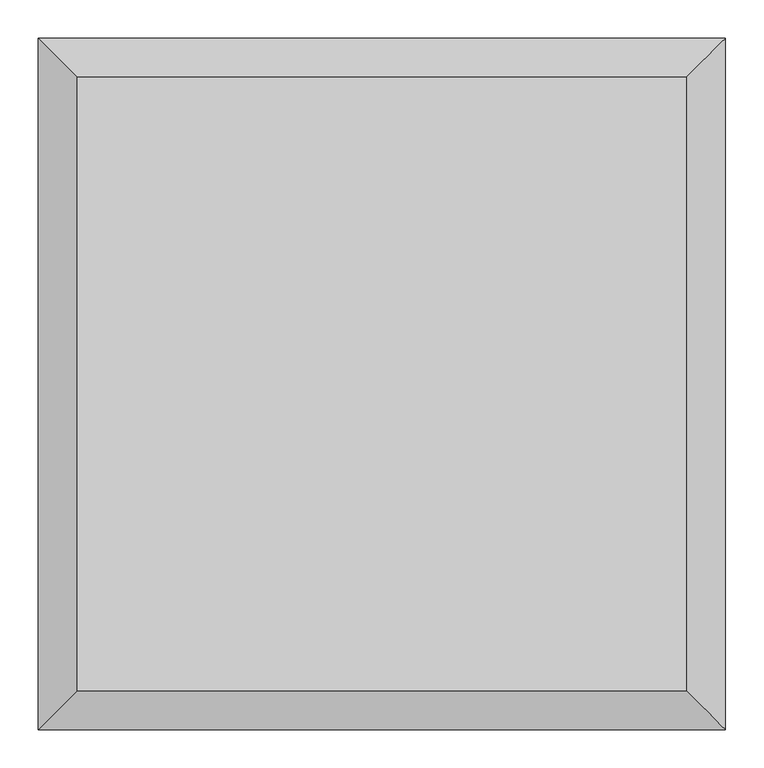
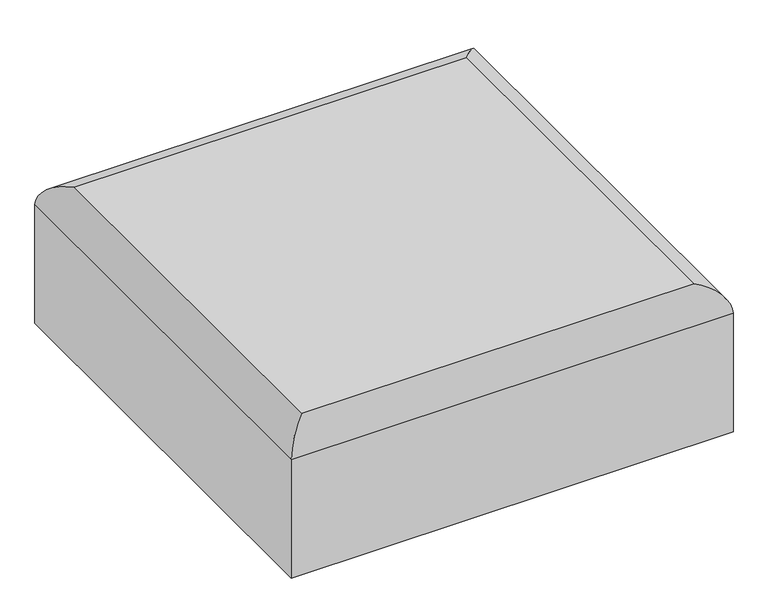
"""IFC4 building model written with IfcOpenShell, lengths in millimetres: furniture geometry, Haworth_MangasSpace_Pouf_Plait : HCGN-MSFP - Plait Pouf."""

from ifc_helpers import new_model, si_unit, frame, origin, place, context, project, spatial, ellipse_curve, source, transform, mapped, element, save
from ifc_brep_helpers import plane_surface, cylinder_surface, advanced_brep


def furniture_9a83f1f0(model_context):
    return source(origin(), model_context, "Body", "AdvancedBrep", [
        advanced_brep(
        [(-143.8008956, 226.615625, 304.8), (-143.8008956, -572.6699216, 304.8), (650.6102706, -572.6699216, 304.8), (650.6102706, 226.615625, 304.8), (-194.6008956, -623.4699216, 0.0), (-194.6008956, 277.415625, 0.0), (701.4102706, 277.415625, 0.0), (701.4102706, -623.4699216, 0.0), (-194.6008956, 277.415625, 254.0), (-194.6008956, -623.4699216, 254.0), (701.4102706, -623.4699216, 254.0), (701.4102706, 277.415625, 254.0)],
        [
            (0, 1),
            (1, 2),
            (2, 3),
            (3, 0),
            (4, 5),
            (5, 6),
            (6, 7),
            (7, 4),
            (8, 5),
            (4, 9),
            (9, 8),
            (7, 10),
            (10, 9),
            (6, 11),
            (11, 10),
            (8, 11),
            (9, 1, ellipse_curve(frame((-143.8008956, -572.6699216, 254.0), z_axis=(-0.7071067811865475, 0.7071067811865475, 0.0), x_axis=(0.7071067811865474, 0.7071067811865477, 0.0)), 71.842049, 50.8)),
            (0, 8, ellipse_curve(frame((-143.8008956, 226.615625, 254.0), z_axis=(-0.7071067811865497, -0.7071067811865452, 0.0), x_axis=(-0.7071067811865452, 0.7071067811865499, 0.0)), 71.842049, 50.8)),
            (10, 2, ellipse_curve(frame((650.6102706, -572.6699216, 254.0), z_axis=(-0.7071067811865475, -0.7071067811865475, 0.0), x_axis=(-0.7071067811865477, 0.7071067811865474, 0.0)), 71.842049, 50.8)),
            (11, 3, ellipse_curve(frame((650.6102706, 226.615625, 254.0), z_axis=(0.7071067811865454, -0.7071067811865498, 0.0), x_axis=(-0.7071067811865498, -0.7071067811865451, 0.0)), 71.842049, 50.8)),
        ],
        [
            plane_surface(frame((-140.8243694, -569.6933954, 304.8), z_axis=(0.0, 0.0, 1.0), x_axis=(0.0, -1.0, 0.0))),
            plane_surface(frame((-140.8243694, -569.6933954, 0.0), z_axis=(0.0, 0.0, -1.0), x_axis=(0.0, 1.0, 0.0))),
            plane_surface(frame((-194.6008956, 277.415625, 0.0), z_axis=(-1.0, 0.0, 0.0), x_axis=(0.0, -1.0, 0.0))),
            plane_surface(frame((-194.6008956, -623.4699216, 0.0), z_axis=(0.0, -1.0, 0.0), x_axis=(1.0, 0.0, 0.0))),
            plane_surface(frame((701.4102706, -623.4699216, 0.0), z_axis=(1.0, 0.0, 0.0), x_axis=(0.0, 1.0, 0.0))),
            plane_surface(frame((701.4102706, 277.415625, 0.0), z_axis=(0.0, 1.0, 0.0), x_axis=(-1.0, 0.0, 0.0))),
            cylinder_surface(frame((-143.8008956, 223.6390988, 254.0), z_axis=(0.0, 1.0, 0.0), x_axis=(1.0, 0.0, 0.0)), 50.8),
            cylinder_surface(frame((-140.8243694, -572.6699216, 254.0), z_axis=(-1.0, 0.0, 0.0), x_axis=(0.0, 1.0, 0.0)), 50.8),
            cylinder_surface(frame((650.6102706, -569.6933954, 254.0), z_axis=(0.0, -1.0, 0.0), x_axis=(-1.0, 0.0, 0.0)), 50.8),
            cylinder_surface(frame((647.6337444, 226.615625, 254.0), z_axis=(1.0, 0.0, 0.0), x_axis=(0.0, -1.0, 0.0)), 50.8),
        ],
        [
            (0, [[1, 2, 3, 4]]),
            (1, [[5, 6, 7, 8]]),
            (2, [[9, -5, 10, 11]]),
            (3, [[-10, -8, 12, 13]]),
            (4, [[-12, -7, 14, 15]]),
            (5, [[-9, 16, -14, -6]]),
            (6, [[-11, 17, -1, 18]]),
            (7, [[-13, 19, -2, -17]]),
            (8, [[-15, 20, -3, -19]]),
            (9, [[-16, -18, -4, -20]]),
        ],
    ),
    ])


if __name__ == "__main__":
    model = new_model("IFC4")
    model_context = context("Model", 3, world=origin())
    ifc_project = project(units=[si_unit("LENGTHUNIT", "METRE", prefix="MILLI")], contexts=[model_context])
    site = spatial("IfcSite", under=ifc_project)
    building = spatial("IfcBuilding", under=site)
    placement = place(None, origin())
    furniture_shape = furniture_9a83f1f0(model_context)
    element("IfcFurniture", 1, ObjectType="Haworth_MangasSpace_Pouf_Plait : HCGN-MSFP - Plait Pouf", at=placement, inside=building, context=model_context, shape_type="MappedRepresentation", body=[
        mapped(furniture_shape, transform((0.0, 0.0, 0.0), x_axis=(1.0, 0.0, 0.0), y_axis=(0.0, 1.0, 0.0), z_axis=(0.0, 0.0, 1.0))),
    ])
    save(model, "model.ifc")
